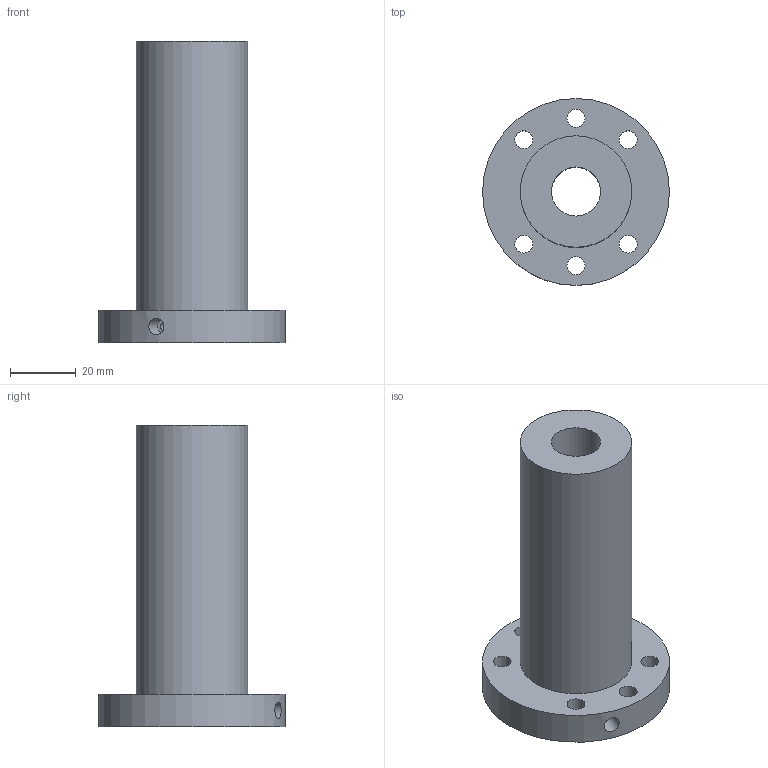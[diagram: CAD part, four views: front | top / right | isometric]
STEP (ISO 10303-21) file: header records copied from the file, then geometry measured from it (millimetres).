
FILE_DESCRIPTION(/* description */ (''),/* implementation_level */ '2;1');
FILE_NAME(/* name */ '15-10K3_3175',/* time_stamp */ '2007-10-15T12:54:02+08:00',/* author */ (''),/* organization */ (''),/* preprocessor_version */ 'ST-DEVELOPER v11',/* originating_system */ 'UGS - NX 5.0',/* authorisation */ '');
FILE_SCHEMA (('CONFIG_CONTROL_DESIGN'));
Length unit declared in the file: millimetre
Products named in the file (1): 15-10K3_3175
Bounding box: 57 x 57 x 92 mm (x, y, z)
Volume: 82047.8 mm3; surface area: 20614.2 mm2
Topology: 1 solids, 1 shells, 15 faces, 34 edges, 23 vertices
Faces by surface type: cylinder 11, plane 4
Full cylindrical faces by diameter (mm): 3 x1, 5 x1, 5.5 x6, 15 x1, 34 x1, 57 x1
Entity records: 600 total; most frequent: CARTESIAN_POINT 174, DIRECTION 72, FACE_BOUND 44, EDGE_LOOP 44, ORIENTED_EDGE 44, AXIS2_PLACEMENT_3D 36, VERTEX_POINT 22, EDGE_CURVE 22
